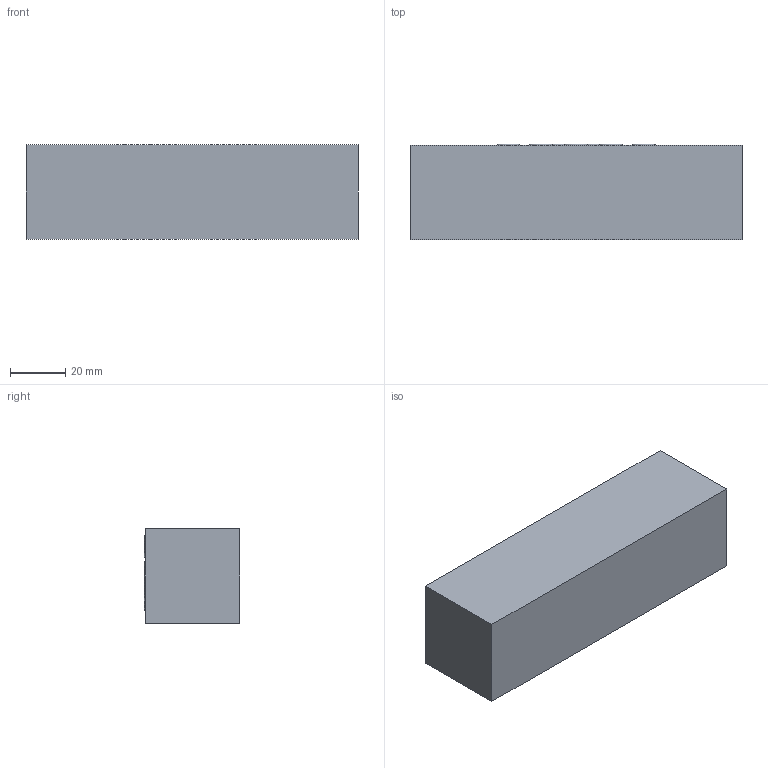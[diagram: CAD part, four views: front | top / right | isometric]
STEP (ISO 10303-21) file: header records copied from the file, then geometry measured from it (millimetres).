
FILE_DESCRIPTION((''),'2;1');
FILE_NAME('563519-EN-G_PRT','2019-12-31T22:00:38',('qusrh3'),(''),'CREO PARAMETRIC BY PTC INC, 2019030','CREO PARAMETRIC BY PTC INC, 2019030','');
FILE_SCHEMA(('CONFIG_CONTROL_DESIGN'));
Length unit declared in the file: inch
Products named in the file (1): 563519-EN-G_PRT
Bounding box: 120.65 x 34.65 x 34.24 mm (x, y, z)
Surface area: 19426.1 mm2 (no closed solid volume)
Topology: 0 solids, 10 shells, 24 faces, 66 edges, 44 vertices
Faces by surface type: torus 18, plane 6
Entity records: 817 total; most frequent: DIRECTION 168, CARTESIAN_POINT 134, ORIENTED_EDGE 96, AXIS2_PLACEMENT_3D 78, EDGE_CURVE 66, CIRCLE 54, VERTEX_POINT 44, EDGE_LOOP 24
